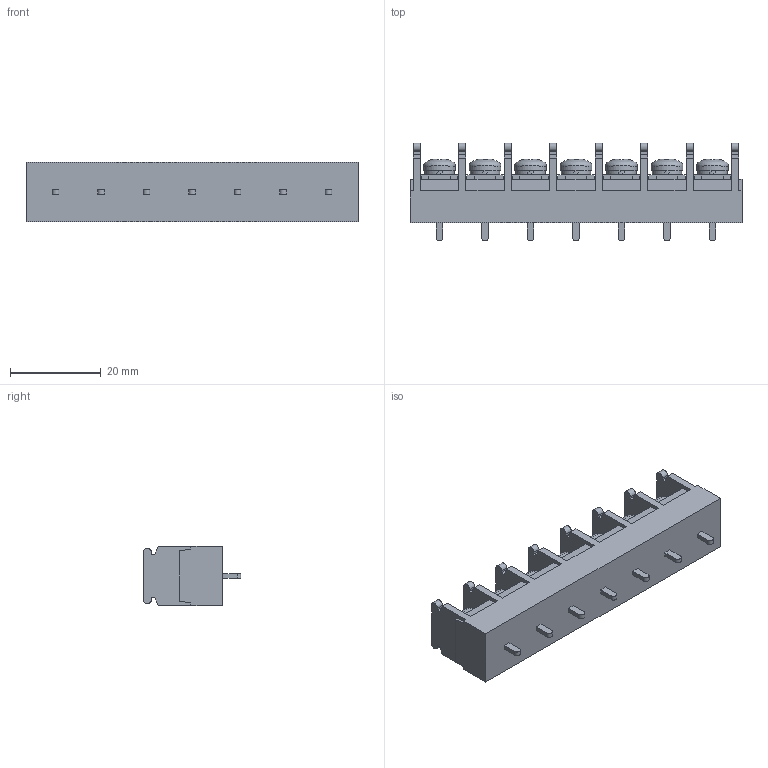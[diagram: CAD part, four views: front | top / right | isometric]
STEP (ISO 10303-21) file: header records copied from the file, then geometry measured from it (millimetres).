
FILE_DESCRIPTION(/* description */ ('Alibre Inc.'),/* implementation_level */ '2;1');
FILE_NAME(/* name */ 'export0',/* time_stamp */ '2015-10-17T19:42:23+09:00',/* author */ (''),/* organization */ (''),/* preprocessor_version */ 'ST-DEVELOPER v14',/* originating_system */ 'Alibre',/* authorisation */ '');
FILE_SCHEMA (('CONFIG_CONTROL_DESIGN'));
Length unit declared in the file: centimetre
Products named in the file (1): ID_1
Bounding box: 73 x 21.5 x 13 mm (x, y, z)
Volume: 11229.4 mm3; surface area: 6405.5 mm2
Topology: 1 solids, 17 shells, 817 faces, 2177 edges, 1449 vertices
Faces by surface type: plane 627, bspline 104, cylinder 44, cone 28, sphere 7, torus 7
Full cylindrical faces by diameter (mm): 6.5 x7, 7 x7
Entity records: 24839 total; most frequent: CARTESIAN_POINT 5598, ORIENTED_EDGE 4326, DIRECTION 2992, EDGE_CURVE 2163, VECTOR 1636, LINE 1636, VERTEX_POINT 1449, AXIS2_PLACEMENT_3D 985
